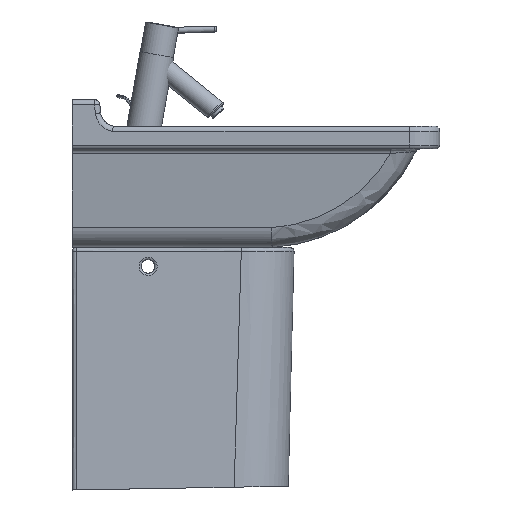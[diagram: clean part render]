
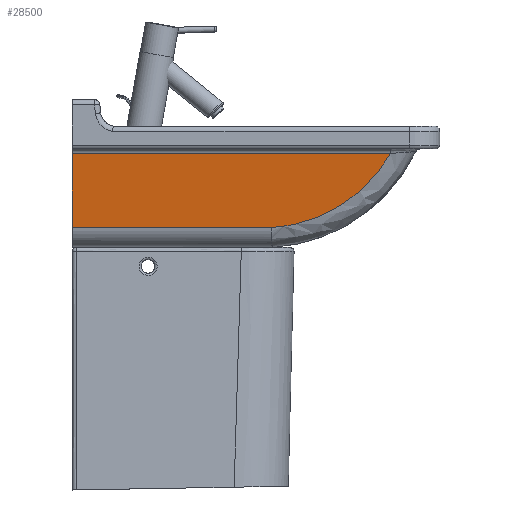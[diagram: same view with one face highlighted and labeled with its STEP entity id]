
A CAD part, left-side view. The second image highlights one B-rep face of the part: STEP entity #28500.
In plain terms, the highlighted planar face has unit normal (-0.993, 0, -0.122).
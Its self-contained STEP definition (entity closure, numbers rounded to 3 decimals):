
#25960=CARTESIAN_POINT('',(216.925,-392.788,158.853));
#25961=VERTEX_POINT('',#25960);
#26026=CARTESIAN_POINT('',(216.925,27.232,158.853));
#26027=VERTEX_POINT('',#26026);
#26035=CARTESIAN_POINT('',(216.925,27.232,158.853));
#26036=DIRECTION('',(0.0,-1.0,0.0));
#26037=VECTOR('',#26036,420.02);
#26038=LINE('',#26035,#26037);
#26039=EDGE_CURVE('',#26027,#25961,#26038,.T.);
#26222=CARTESIAN_POINT('',(228.897,-235.645,61.344));
#26223=VERTEX_POINT('',#26222);
#26224=CARTESIAN_POINT('',(205.127,-224.339,254.943));
#26225=DIRECTION('',(0.993,0.0,0.122));
#26226=DIRECTION('',(0.122,0.,-0.993));
#26227=AXIS2_PLACEMENT_3D('',#26224,#26225,#26226);
#26228=ELLIPSE('',#26227,195.385,193.929);
#26229=EDGE_CURVE('',#25961,#26223,#26228,.T.);
#26271=CARTESIAN_POINT('',(228.897,27.232,61.344));
#26272=VERTEX_POINT('',#26271);
#26289=CARTESIAN_POINT('',(228.897,-235.645,61.344));
#26290=DIRECTION('',(0.0,1.0,0.0));
#26291=VECTOR('',#26290,262.877);
#26292=LINE('',#26289,#26291);
#26293=EDGE_CURVE('',#26223,#26272,#26292,.T.);
#26407=CARTESIAN_POINT('',(216.925,27.232,158.853));
#26408=DIRECTION('',(0.122,0.0,-0.993));
#26409=VECTOR('',#26408,98.241);
#26410=LINE('',#26407,#26409);
#26411=EDGE_CURVE('',#26027,#26272,#26410,.T.);
#28489=CARTESIAN_POINT('',(224.765,-94.018,95.0));
#28490=DIRECTION('',(-0.993,0.0,-0.122));
#28491=DIRECTION('',(-0.122,0.0,0.993));
#28492=AXIS2_PLACEMENT_3D('',#28489,#28490,#28491);
#28493=PLANE('',#28492);
#28494=ORIENTED_EDGE('',*,*,#26039,.F.);
#28495=ORIENTED_EDGE('',*,*,#26411,.T.);
#28496=ORIENTED_EDGE('',*,*,#26293,.F.);
#28497=ORIENTED_EDGE('',*,*,#26229,.F.);
#28498=EDGE_LOOP('',(#28494,#28495,#28496,#28497));
#28499=FACE_OUTER_BOUND('',#28498,.T.);
#28500=ADVANCED_FACE('',(#28499),#28493,.T.);
